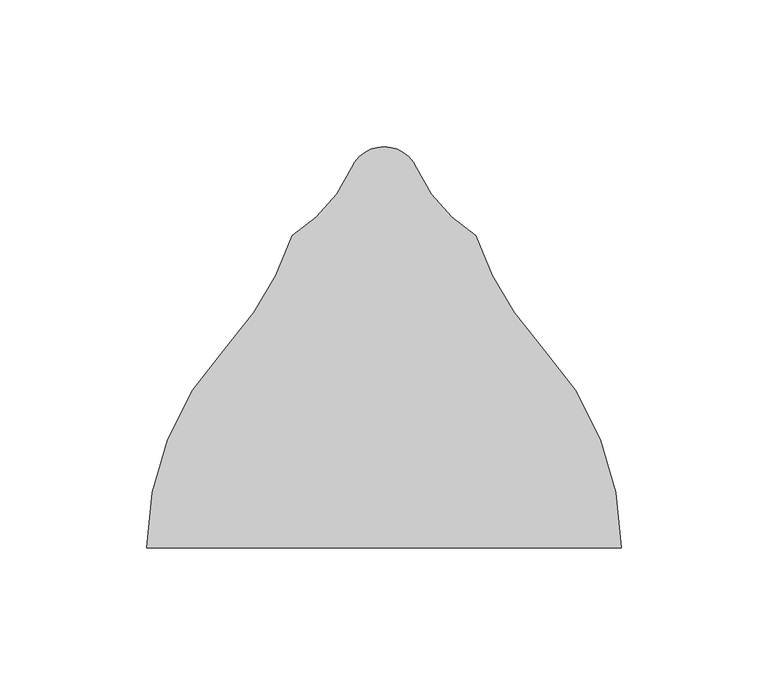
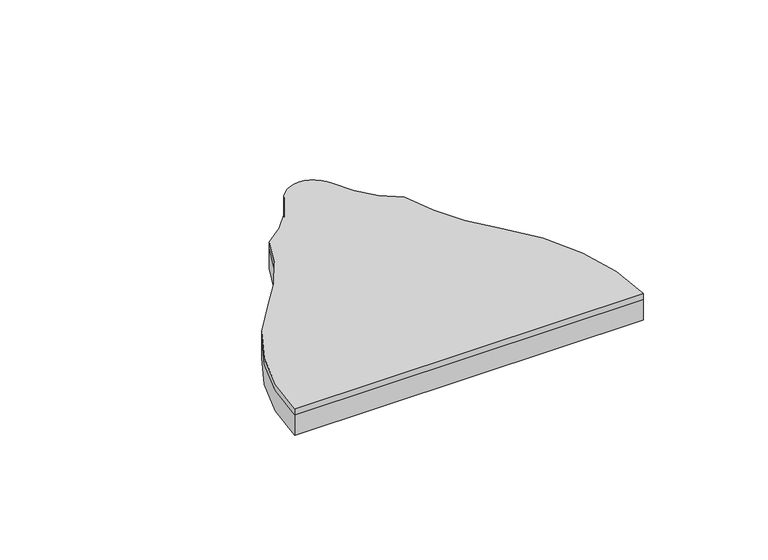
"""IFC4 building model written with IfcOpenShell, lengths in millimetres: proxy geometry, FilzFelt_Fish_Block : Fish Block."""

from ifc_helpers import new_model, si_unit, frame, origin, place, context, project, spatial, polyline, circle_curve, source, transform, mapped, element, save
from ifc_brep_helpers import plane_surface, cylinder_surface, revolved_surface, advanced_brep


def specialty_equipment_1cb976ee(model_context):
    return source(origin(), model_context, "Body", "AdvancedBrep", [
        advanced_brep(
        [(-53.5486457, 68.6120133, 10.0210937), (-31.2619065, 106.3338576, 10.0210937), (-11.0103348, 129.4133496, 10.0210937), (11.0103348, 129.4133496, 10.0210937), (31.2619065, 106.3338576, 10.0210937), (53.5486457, 68.6120133, 10.0210937), (80.7142226, 0.0, 10.0210937), (-80.7142226, 0.0, 10.0210937), (53.5486457, 68.6120133, 12.9976563), (31.2619065, 106.3338576, 12.9976563), (11.0103348, 129.4133496, 12.9976563), (0.0, 136.5838795, 12.9976563), (-11.0103348, 129.4133496, 12.9976563), (-31.2619065, 106.3338576, 12.9976563), (-53.5486457, 68.6120133, 12.9976563), (-80.7142226, 0.0, 12.9976563), (80.7142226, 0.0, 12.9976563)],
        [
            (0, 1, circle_curve(frame((-126.6124317, 137.2240266, 10.0210937), z_axis=(0.0, 0.0, 1.0), x_axis=(-1.0, 0.0, 0.0)), 100.2293629)),
            (1, 2, circle_curve(frame((-57.9263497, 150.1559416, 10.0210937), z_axis=(0.0, 0.0, 1.0), x_axis=(-1.0, 0.0, 0.0)), 51.2968574)),
            (2, 3, circle_curve(frame((0.0, 124.5454408, 10.0210937), z_axis=(0.0, 0.0, -1.0), x_axis=(-1.0, 0.0, 0.0)), 12.0384388)),
            (3, 4, circle_curve(frame((57.9263497, 150.1559416, 10.0210937), z_axis=(0.0, 0.0, 1.0), x_axis=(-1.0, 0.0, 0.0)), 51.2968574)),
            (4, 5, circle_curve(frame((126.6124317, 137.2240266, 10.0210937), z_axis=(0.0, 0.0, 1.0), x_axis=(-1.0, 0.0, 0.0)), 100.2293629)),
            (5, 6, circle_curve(frame((-19.5151403, 0.0, 10.0210937), z_axis=(0.0, 0.0, -1.0), x_axis=(-1.0, 0.0, 0.0)), 100.2293629)),
            (6, 7),
            (7, 0, circle_curve(frame((19.5151403, 0.0, 10.0210937), z_axis=(0.0, 0.0, -1.0), x_axis=(-1.0, 0.0, 0.0)), 100.2293629)),
            (8, 9, circle_curve(frame((126.6124317, 137.2240266, 12.9976563), z_axis=(0.0, 0.0, -1.0), x_axis=(-1.0, 0.0, 0.0)), 100.2293629)),
            (9, 10, circle_curve(frame((57.9263497, 150.1559416, 12.9976563), z_axis=(0.0, 0.0, -1.0), x_axis=(-1.0, 0.0, 0.0)), 51.2968574)),
            (10, 11, circle_curve(frame((0.0, 124.5454408, 12.9976563), z_axis=(0.0, 0.0, 1.0), x_axis=(-1.0, 0.0, 0.0)), 12.0384388)),
            (11, 12, circle_curve(frame((0.0, 124.5454408, 12.9976563), z_axis=(0.0, 0.0, 1.0), x_axis=(-1.0, 0.0, 0.0)), 12.0384388)),
            (12, 13, circle_curve(frame((-57.9263497, 150.1559416, 12.9976563), z_axis=(0.0, 0.0, -1.0), x_axis=(-1.0, 0.0, 0.0)), 51.2968574)),
            (13, 14, circle_curve(frame((-126.6124317, 137.2240266, 12.9976563), z_axis=(0.0, 0.0, -1.0), x_axis=(-1.0, 0.0, 0.0)), 100.2293629)),
            (14, 15, circle_curve(frame((19.5151403, 0.0, 12.9976563), z_axis=(0.0, 0.0, 1.0), x_axis=(-1.0, 0.0, 0.0)), 100.2293629)),
            (15, 16),
            (16, 8, circle_curve(frame((-19.5151403, 0.0, 12.9976563), z_axis=(0.0, 0.0, 1.0), x_axis=(-1.0, 0.0, 0.0)), 100.2293629)),
            (5, 8),
            (16, 6),
            (14, 0),
            (7, 15),
            (13, 1),
            (12, 2),
            (10, 3),
            (9, 4),
        ],
        [
            plane_surface(frame((0.0, 0.0, 10.0210937), z_axis=(0.0, 0.0, -1.0), x_axis=(0.0, -1.0, 0.0))),
            plane_surface(frame((0.0, 0.0, 12.9976563), z_axis=(0.0, 0.0, 1.0), x_axis=(0.0, -1.0, 0.0))),
            cylinder_surface(frame((-19.5151403, 0.0, 10.0210937), z_axis=(0.0, 0.0, -1.0), x_axis=(-1.0, 0.0, 0.0)), 100.2293629),
            cylinder_surface(frame((19.5151403, 0.0, 10.0210937), z_axis=(0.0, 0.0, -1.0), x_axis=(-1.0, 0.0, 0.0)), 100.2293629),
            revolved_surface(polyline([(-226.84179460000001, 137.2240266, 12.9976563), (-226.84179460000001, 137.2240266, 10.0210937)]), (-126.6124317, 137.2240266, 10.0210937), (0.0, 0.0, 1.0)),
            revolved_surface(polyline([(-109.2232071, 150.1559416, 12.9976563), (-109.2232071, 150.1559416, 10.0210937)]), (-57.9263497, 150.1559416, 10.0210937), (0.0, 0.0, 1.0)),
            cylinder_surface(frame((0.0, 124.5454408, 10.0210937), z_axis=(0.0, 0.0, -1.0), x_axis=(-1.0, 0.0, 0.0)), 12.0384388),
            revolved_surface(polyline([(6.629492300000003, 150.1559416, 12.9976563), (6.629492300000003, 150.1559416, 10.0210937)]), (57.9263497, 150.1559416, 10.0210937), (0.0, 0.0, 1.0)),
            revolved_surface(polyline([(26.383068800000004, 137.2240266, 12.9976563), (26.383068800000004, 137.2240266, 10.0210937)]), (126.6124317, 137.2240266, 10.0210937), (0.0, 0.0, 1.0)),
            plane_surface(frame((112.4642226, 0.0, 12.9976562), z_axis=(0.0, -1.0, 0.0), x_axis=(0.0, 0.0, -1.0))),
        ],
        [
            (0, [[1, 2, 3, 4, 5, 6, 7, 8]]),
            (1, [[9, 10, 11, 12, 13, 14, 15, 16, 17]]),
            (2, [[18, -17, 19, -6]]),
            (3, [[20, -8, 21, -15]]),
            (4, [[-1, -20, -14, 22]]),
            (5, [[-2, -22, -13, 23]]),
            (6, [[-3, -23, -12, -11, 24]]),
            (7, [[-4, -24, -10, 25]]),
            (8, [[-5, -25, -9, -18]]),
            (9, [[-7, -19, -16, -21]]),
        ],
    ),
        advanced_brep(
        [(-53.5486457, 68.6120133, 0.0), (-31.2619065, 106.3338576, 0.0), (-11.0103348, 129.4133496, 0.0), (0.0, 136.5838795, 0.0), (11.0103348, 129.4133496, 0.0), (31.2619065, 106.3338576, 0.0), (53.5486457, 68.6120133, 0.0), (80.7142226, 0.0, 0.0), (-80.7142226, 0.0, 0.0), (53.5486457, 68.6120133, 10.0210937), (31.2619065, 106.3338576, 10.0210937), (11.0103348, 129.4133496, 10.0210937), (-11.0103348, 129.4133496, 10.0210937), (-31.2619065, 106.3338576, 10.0210937), (-53.5486457, 68.6120133, 10.0210937), (-80.7142226, 0.0, 10.0210937), (80.7142226, 0.0, 10.0210937)],
        [
            (0, 1, circle_curve(frame((-126.6124317, 137.2240266, 0.0), z_axis=(0.0, 0.0, 1.0), x_axis=(-1.0, 0.0, 0.0)), 100.2293629)),
            (1, 2, circle_curve(frame((-57.9263497, 150.1559416, 0.0), z_axis=(0.0, 0.0, 1.0), x_axis=(-1.0, 0.0, 0.0)), 51.2968574)),
            (2, 3, circle_curve(frame((0.0, 124.5454408, 0.0), z_axis=(0.0, 0.0, -1.0), x_axis=(-1.0, 0.0, 0.0)), 12.0384388)),
            (3, 4, circle_curve(frame((0.0, 124.5454408, 0.0), z_axis=(0.0, 0.0, -1.0), x_axis=(-1.0, 0.0, 0.0)), 12.0384388)),
            (4, 5, circle_curve(frame((57.9263497, 150.1559416, 0.0), z_axis=(0.0, 0.0, 1.0), x_axis=(-1.0, 0.0, 0.0)), 51.2968574)),
            (5, 6, circle_curve(frame((126.6124317, 137.2240266, 0.0), z_axis=(0.0, 0.0, 1.0), x_axis=(-1.0, 0.0, 0.0)), 100.2293629)),
            (6, 7, circle_curve(frame((-19.5151403, 0.0, 0.0), z_axis=(0.0, 0.0, -1.0), x_axis=(-1.0, 0.0, 0.0)), 100.2293629)),
            (7, 8),
            (8, 0, circle_curve(frame((19.5151403, 0.0, 0.0), z_axis=(0.0, 0.0, -1.0), x_axis=(-1.0, 0.0, 0.0)), 100.2293629)),
            (9, 10, circle_curve(frame((126.6124317, 137.2240266, 10.0210937), z_axis=(0.0, 0.0, -1.0), x_axis=(-1.0, 0.0, 0.0)), 100.2293629)),
            (10, 11, circle_curve(frame((57.9263497, 150.1559416, 10.0210937), z_axis=(0.0, 0.0, -1.0), x_axis=(-1.0, 0.0, 0.0)), 51.2968574)),
            (11, 12, circle_curve(frame((0.0, 124.5454408, 10.0210937), z_axis=(0.0, 0.0, 1.0), x_axis=(-1.0, 0.0, 0.0)), 12.0384388)),
            (12, 13, circle_curve(frame((-57.9263497, 150.1559416, 10.0210937), z_axis=(0.0, 0.0, -1.0), x_axis=(-1.0, 0.0, 0.0)), 51.2968574)),
            (13, 14, circle_curve(frame((-126.6124317, 137.2240266, 10.0210937), z_axis=(0.0, 0.0, -1.0), x_axis=(-1.0, 0.0, 0.0)), 100.2293629)),
            (14, 15, circle_curve(frame((19.5151403, 0.0, 10.0210937), z_axis=(0.0, 0.0, 1.0), x_axis=(-1.0, 0.0, 0.0)), 100.2293629)),
            (15, 16),
            (16, 9, circle_curve(frame((-19.5151403, 0.0, 10.0210937), z_axis=(0.0, 0.0, 1.0), x_axis=(-1.0, 0.0, 0.0)), 100.2293629)),
            (14, 0),
            (8, 15),
            (13, 1),
            (12, 2),
            (11, 4),
            (10, 5),
            (9, 6),
            (16, 7),
        ],
        [
            plane_surface(frame((0.0, 0.0, 0.0), z_axis=(0.0, 0.0, -1.0), x_axis=(0.0, -1.0, 0.0))),
            plane_surface(frame((0.0, 0.0, 10.0210937), z_axis=(0.0, 0.0, 1.0), x_axis=(0.0, -1.0, 0.0))),
            cylinder_surface(frame((19.5151403, 0.0, 0.0), z_axis=(0.0, 0.0, -1.0), x_axis=(-1.0, 0.0, 0.0)), 100.2293629),
            revolved_surface(polyline([(-226.84179460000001, 137.2240266, 10.0210937), (-226.84179460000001, 137.2240266, 0.0)]), (-126.6124317, 137.2240266, 0.0), (0.0, 0.0, 1.0)),
            revolved_surface(polyline([(-109.2232071, 150.1559416, 10.0210937), (-109.2232071, 150.1559416, 0.0)]), (-57.9263497, 150.1559416, 0.0), (0.0, 0.0, 1.0)),
            cylinder_surface(frame((0.0, 124.5454408, 0.0), z_axis=(0.0, 0.0, -1.0), x_axis=(-1.0, 0.0, 0.0)), 12.0384388),
            revolved_surface(polyline([(6.629492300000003, 150.1559416, 10.0210937), (6.629492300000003, 150.1559416, 0.0)]), (57.9263497, 150.1559416, 0.0), (0.0, 0.0, 1.0)),
            revolved_surface(polyline([(26.383068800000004, 137.2240266, 10.0210937), (26.383068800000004, 137.2240266, 0.0)]), (126.6124317, 137.2240266, 0.0), (0.0, 0.0, 1.0)),
            cylinder_surface(frame((-19.5151403, 0.0, 0.0), z_axis=(0.0, 0.0, -1.0), x_axis=(-1.0, 0.0, 0.0)), 100.2293629),
            plane_surface(frame((112.4642226, 0.0, 12.9976562), z_axis=(0.0, -1.0, 0.0), x_axis=(0.0, 0.0, -1.0))),
        ],
        [
            (0, [[1, 2, 3, 4, 5, 6, 7, 8, 9]]),
            (1, [[10, 11, 12, 13, 14, 15, 16, 17]]),
            (2, [[18, -9, 19, -15]]),
            (3, [[-1, -18, -14, 20]]),
            (4, [[-2, -20, -13, 21]]),
            (5, [[-12, 22, -4, -3, -21]]),
            (6, [[-5, -22, -11, 23]]),
            (7, [[-6, -23, -10, 24]]),
            (8, [[-24, -17, 25, -7]]),
            (9, [[-8, -25, -16, -19]]),
        ],
    ),
    ])


if __name__ == "__main__":
    model = new_model("IFC4")
    model_context = context("Model", 3, world=origin())
    ifc_project = project(units=[si_unit("LENGTHUNIT", "METRE", prefix="MILLI")], contexts=[model_context])
    site = spatial("IfcSite", under=ifc_project)
    building = spatial("IfcBuilding", under=site)
    placement = place(None, origin())
    specialty_equipment_shape = specialty_equipment_1cb976ee(model_context)
    element("IfcBuildingElementProxy", 1, Name="FilzFelt_Fish_Block : Fish Block", ObjectType="FilzFelt_Fish_Block : Fish Block", at=placement, inside=building, context=model_context, shape_type="MappedRepresentation", body=[
        mapped(specialty_equipment_shape, transform((0.0, 0.0, 0.0), x_axis=(1.0, 0.0, 0.0), y_axis=(0.0, 1.0, 0.0), z_axis=(0.0, 0.0, 1.0))),
    ])
    save(model, "model.ifc")
